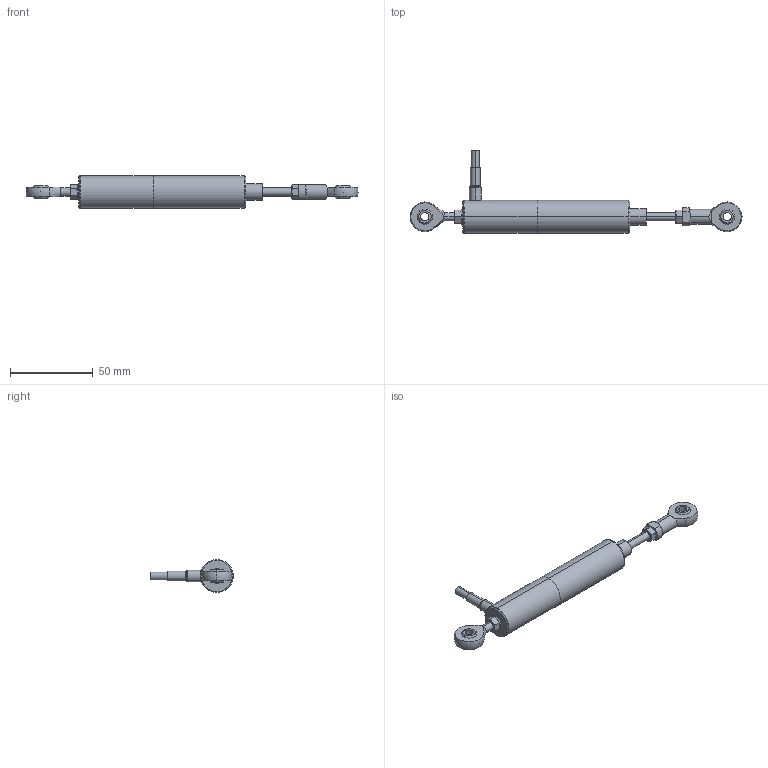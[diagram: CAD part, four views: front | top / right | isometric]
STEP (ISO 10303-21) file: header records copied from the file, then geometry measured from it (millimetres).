
FILE_DESCRIPTION (( 'STEP AP214' ), '1' );
FILE_NAME ('Wegsensor LVDT-ISDG-10-K.STEP', '2018-11-12T13:29:18', ( '' ), ( '' ), 'SwSTEP 2.0', 'SolidWorks 2015', '' );
FILE_SCHEMA (( 'AUTOMOTIVE_DESIGN' ));
Length unit declared in the file: millimetre
Products named in the file (1): Wegsensor LVDT-ISDG-10-K
Bounding box: 201 x 49.95 x 19.9 mm (x, y, z)
Volume: 38175 mm3; surface area: 13473.5 mm2
Topology: 7 solids, 7 shells, 134 faces, 290 edges, 176 vertices
Faces by surface type: plane 42, cone 42, cylinder 34, sphere 12, torus 4
Entity records: 4135 total; most frequent: CARTESIAN_POINT 969, DIRECTION 628, ORIENTED_EDGE 556, AXIS2_PLACEMENT_3D 281, EDGE_CURVE 278, VERTEX_POINT 168, EDGE_LOOP 150, CIRCLE 146
